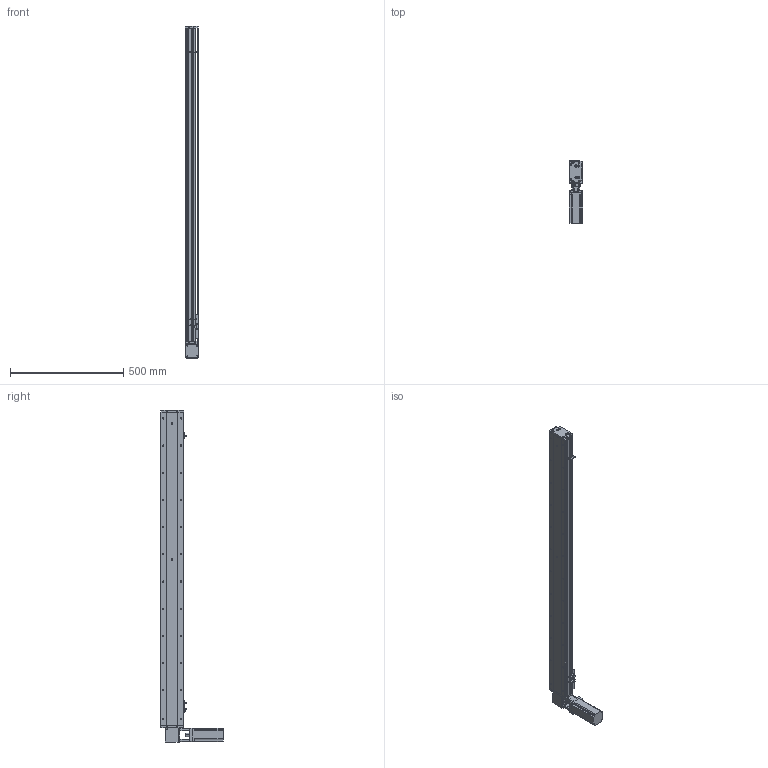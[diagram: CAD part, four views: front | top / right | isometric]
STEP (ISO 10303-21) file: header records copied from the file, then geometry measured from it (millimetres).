
FILE_DESCRIPTION (( 'STEP AP214' ), '1' );
FILE_NAME ('KSD100B-S1200-MLT-CM.STEP', '2019-10-26T05:56:39', ( '微软用户' ), ( '微软中国' ), 'SwSTEP 2.0', 'SolidWorks 2014', '' );
FILE_SCHEMA (( 'AUTOMOTIVE_DESIGN' ));
Length unit declared in the file: millimetre
Products named in the file (12): 100遵傷啣肮祭湍; 100宽底板半封闭同步带1200行程; KSD100B-S1200-MLT-CM; 100宽安装板同步带带电机座400W,86; 100遵鎮湛假蚾啣1 ; 100宽防尘板1200行程-同步带; U倰嫖萇EEㄜSX672; 覜茼え100遵圉猾敕; 台达ECMA－C20604AS伺服电机; 100宽马达安装板同步带右; 100宽同步带安装板半封闭; 100宽马达安装板同步带
Assembly tree (13 placements, depth 2):
  KSD100B-S1200-MLT-CM
    100宽底板半封闭同步带1200行程
    100遵傷啣肮祭湍
    100宽马达安装板同步带
    100宽同步带安装板半封闭
    100宽马达安装板同步带右
    台达ECMA－C20604AS伺服电机
    覜茼え100遵圉猾敕
    U倰嫖萇EEㄜSX672  x3
    100宽防尘板1200行程-同步带
    100遵鎮湛假蚾啣1 
    100宽安装板同步带带电机座400W,86
Bounding box: 61 x 275 x 1465 mm (x, y, z)
Volume: 3196197.1 mm3; surface area: 1054162.9 mm2
Topology: 14 solids, 14 shells, 1516 faces, 4273 edges, 2707 vertices
Faces by surface type: cylinder 782, plane 583, cone 151
Entity records: 53789 total; most frequent: CARTESIAN_POINT 11124, DIRECTION 7441, ORIENTED_EDGE 7150, EDGE_CURVE 3575, AXIS2_PLACEMENT_3D 2746, VERTEX_POINT 2331, LINE 1949, VECTOR 1949
